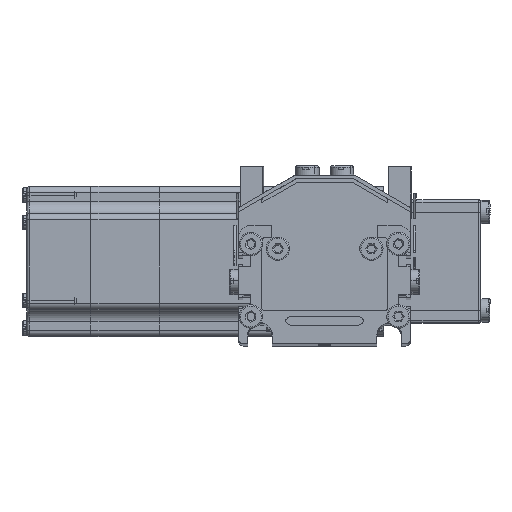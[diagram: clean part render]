
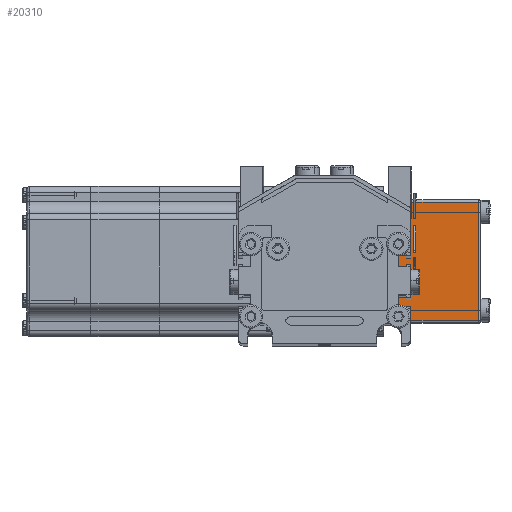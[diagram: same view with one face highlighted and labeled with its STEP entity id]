
A CAD part, top view. The second image highlights one B-rep face of the part: STEP entity #20310.
In plain terms, the highlighted planar face has unit normal (0, 0, 1) as drawn and (-1, 0, 0) by its records, which use the part's own axes.
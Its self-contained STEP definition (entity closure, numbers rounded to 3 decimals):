
#20277 = ORIENTED_EDGE ( 'NONE', *, *, #20320, .T. ) ;
#20288 = ORIENTED_EDGE ( 'NONE', *, *, #20673, .T. ) ;
#20304 = EDGE_CURVE ( 'NONE', #20686, #20312, #173540, .T. ) ;
#20306 = ORIENTED_EDGE ( 'NONE', *, *, #20304, .T. ) ;
#20310 = ADVANCED_FACE ( 'NONE', ( #173534 ), #173547, .F. ) ;
#20311 = VERTEX_POINT ( 'NONE', #173523 ) ;
#20312 = VERTEX_POINT ( 'NONE', #173402 ) ;
#20320 = EDGE_CURVE ( 'NONE', #20311, #20481, #173405, .T. ) ;
#20481 = VERTEX_POINT ( 'NONE', #173676 ) ;
#20673 = EDGE_CURVE ( 'NONE', #20481, #20686, #173614, .T. ) ;
#20686 = VERTEX_POINT ( 'NONE', #173629 ) ;
#20741 = EDGE_CURVE ( 'NONE', #20312, #20311, #173868, .T. ) ;
#20777 = EDGE_LOOP ( 'NONE', ( #20288, #20306, #20778, #20277 ) ) ;
#20778 = ORIENTED_EDGE ( 'NONE', *, *, #20741, .T. ) ;
#173398 = DIRECTION ( 'NONE',  ( 0., 0., -1. ) ) ;
#173399 = VECTOR ( 'NONE', #173398, 1000. ) ;
#173400 = CARTESIAN_POINT ( 'NONE',  ( -50., 24., 39.5 ) ) ;
#173402 = CARTESIAN_POINT ( 'NONE',  ( -50., -24., 38.5 ) ) ;
#173403 = DIRECTION ( 'NONE',  ( 0., 1., 0. ) ) ;
#173404 = DIRECTION ( 'NONE',  ( 1., 0., 0. ) ) ;
#173405 = LINE ( 'NONE', #173400, #173399 ) ;
#173407 = AXIS2_PLACEMENT_3D ( 'NONE', #173526, #173404, #173403 ) ;
#173408 = DIRECTION ( 'NONE',  ( 0., 0., 1. ) ) ;
#173409 = VECTOR ( 'NONE', #173408, 1000. ) ;
#173410 = CARTESIAN_POINT ( 'NONE',  ( -50., -24., 39.5 ) ) ;
#173523 = CARTESIAN_POINT ( 'NONE',  ( -50., 24., 38.5 ) ) ;
#173526 = CARTESIAN_POINT ( 'NONE',  ( -50., 25., 39.5 ) ) ;
#173534 = FACE_OUTER_BOUND ( 'NONE', #20777, .T. ) ;
#173540 = LINE ( 'NONE', #173410, #173409 ) ;
#173547 = PLANE ( 'NONE',  #173407 ) ;
#173611 = DIRECTION ( 'NONE',  ( 0., -1., 0. ) ) ;
#173612 = VECTOR ( 'NONE', #173611, 1000. ) ;
#173613 = CARTESIAN_POINT ( 'NONE',  ( -50., 25., 0. ) ) ;
#173614 = LINE ( 'NONE', #173613, #173612 ) ;
#173629 = CARTESIAN_POINT ( 'NONE',  ( -50., -24., 0. ) ) ;
#173676 = CARTESIAN_POINT ( 'NONE',  ( -50., 24., 0. ) ) ;
#173863 = DIRECTION ( 'NONE',  ( 0., 1., 0. ) ) ;
#173864 = VECTOR ( 'NONE', #173863, 1000. ) ;
#173868 = LINE ( 'NONE', #173961, #173864 ) ;
#173961 = CARTESIAN_POINT ( 'NONE',  ( -50., 25., 38.5 ) ) ;
